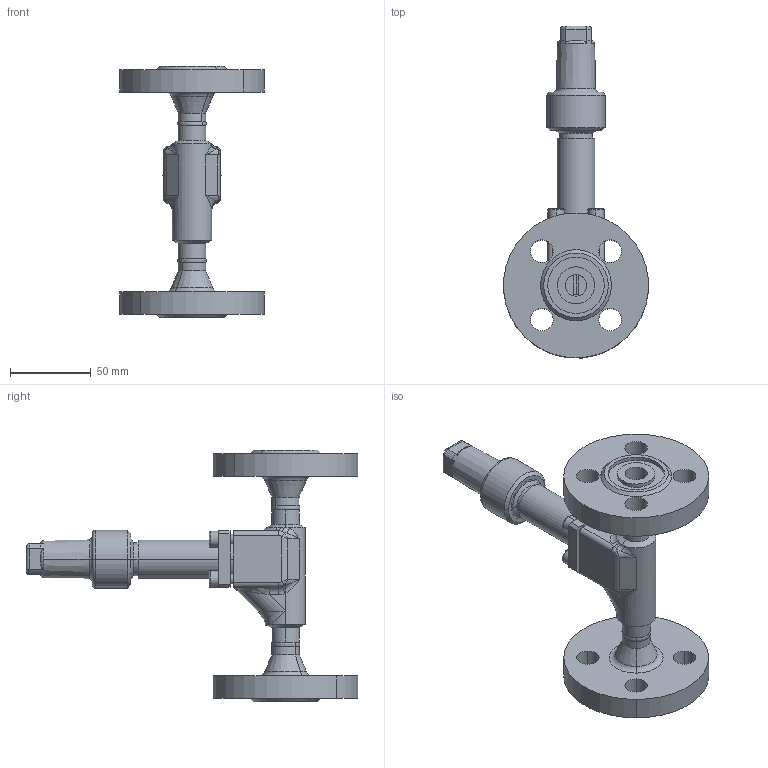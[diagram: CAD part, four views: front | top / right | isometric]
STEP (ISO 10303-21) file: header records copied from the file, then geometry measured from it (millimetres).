
FILE_DESCRIPTION (( 'STEP AP214' ), '1' );
FILE_NAME ('AVR96330-DN010_DIN-FL-N_PS40.STEP', '2006-05-02T07:57:12', ( 'Herr Grams' ), ( 'AWP GmbH' ), 'SwSTEP 2.0', 'SolidWorks 2002296', '' );
FILE_SCHEMA (( 'AUTOMOTIVE_DESIGN' ));
Length unit declared in the file: millimetre
Products named in the file (10): AVR96330-DN010_DIN-FL-N_PS40; Kappe96300E10_DN6-20_Standard; Geh-kpl96320E08-DN10_PS40_DIN-FL_Standard; Gehäuse96300E08-DN10_PS40_R1_Standard; Flansch-DIN2635-Nut_PS40_DIN-Flansch-DN010_PS40-Nut; bead963-DN010-1_Standard; bead963-DN010-2_Standard; AVR96310E10_Deck+Schr-DN6-15_Standard; Deckel96310E10-DN6-15_PS40_Standard; Zylinderschraube-DIN912_M 6x 18
Assembly tree (13 placements, depth 3):
  AVR96330-DN010_DIN-FL-N_PS40
    Kappe96300E10_DN6-20_Standard
    AVR96310E10_Deck+Schr-DN6-15_Standard
      Zylinderschraube-DIN912_M 6x 18  x4
      Deckel96310E10-DN6-15_PS40_Standard
    Geh-kpl96320E08-DN10_PS40_DIN-FL_Standard
      Gehäuse96300E08-DN10_PS40_R1_Standard
      Flansch-DIN2635-Nut_PS40_DIN-Flansch-DN010_PS40-Nut  x2
      bead963-DN010-2_Standard
      bead963-DN010-1_Standard
Bounding box: 89.66 x 205.83 x 156 mm (x, y, z)
Volume: 284884.7 mm3; surface area: 80970.3 mm2
Topology: 11 solids, 11 shells, 342 faces, 796 edges, 489 vertices
Faces by surface type: cylinder 128, plane 102, cone 47, bspline 37, torus 28
Entity records: 21530 total; most frequent: CARTESIAN_POINT 15058, ORIENTED_EDGE 1204, DIRECTION 1174, EDGE_CURVE 602, AXIS2_PLACEMENT_3D 489, VERTEX_POINT 371, EDGE_LOOP 293, ADVANCED_FACE 256
